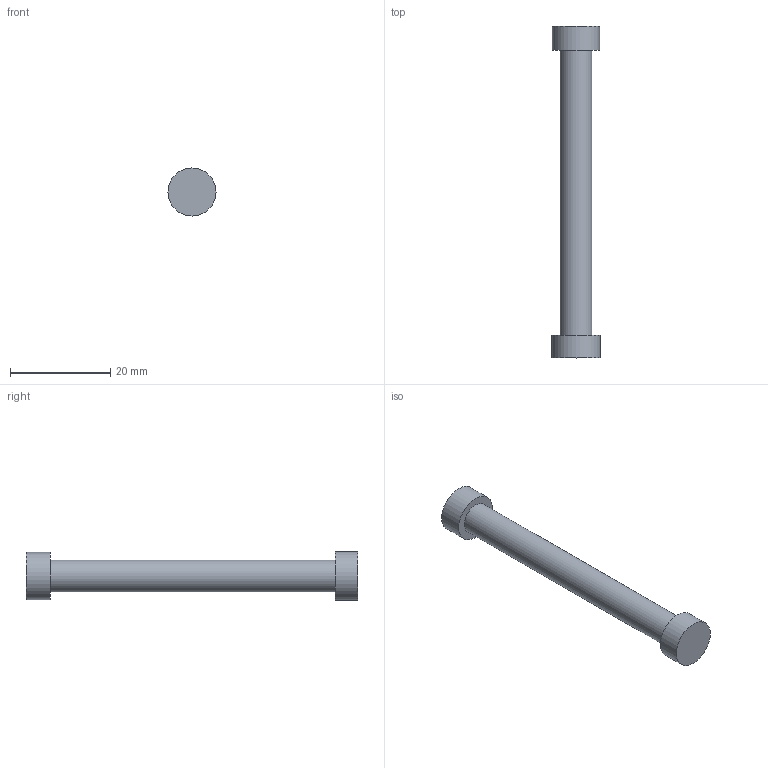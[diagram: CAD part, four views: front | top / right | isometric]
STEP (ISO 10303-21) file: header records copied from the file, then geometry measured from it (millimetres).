
FILE_DESCRIPTION(('Open CASCADE Model'),'2;1');
FILE_NAME('Open CASCADE Shape Model','2026-10-16T05:11:25',('Author'),( 'Open CASCADE'),'Open CASCADE STEP processor 7.9','Open CASCADE 7.9' ,'Unknown');
FILE_SCHEMA(('AUTOMOTIVE_DESIGN { 1 0 10303 214 1 1 1 1 }'));
Length unit declared in the file: millimetre
Products named in the file (1): Open CASCADE STEP translator 7.9 6
Bounding box: 9.6 x 66.3 x 9.6 mm (x, y, z)
Volume: 2472.5 mm3; surface area: 1640.2 mm2
Topology: 1 solids, 1 shells, 7 faces, 9 edges, 6 vertices
Faces by surface type: plane 4, cylinder 3
Full cylindrical faces by diameter (mm): 6.35 x1, 9.52 x1, 9.6 x1
Entity records: 276 total; most frequent: DIRECTION 49, CARTESIAN_POINT 41, ORIENTED_EDGE 18, PCURVE 18, DEFINITIONAL_REPRESENTATION 18, LINE 15, VECTOR 15, AXIS2_PLACEMENT_3D 14
